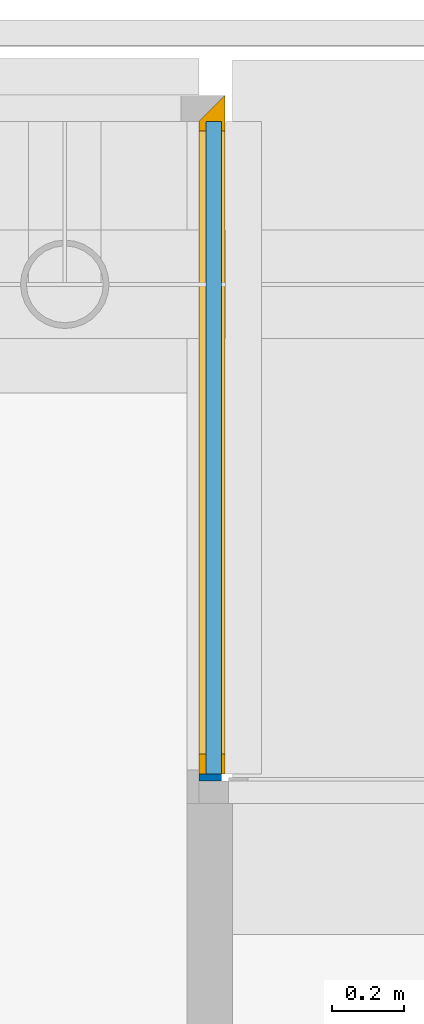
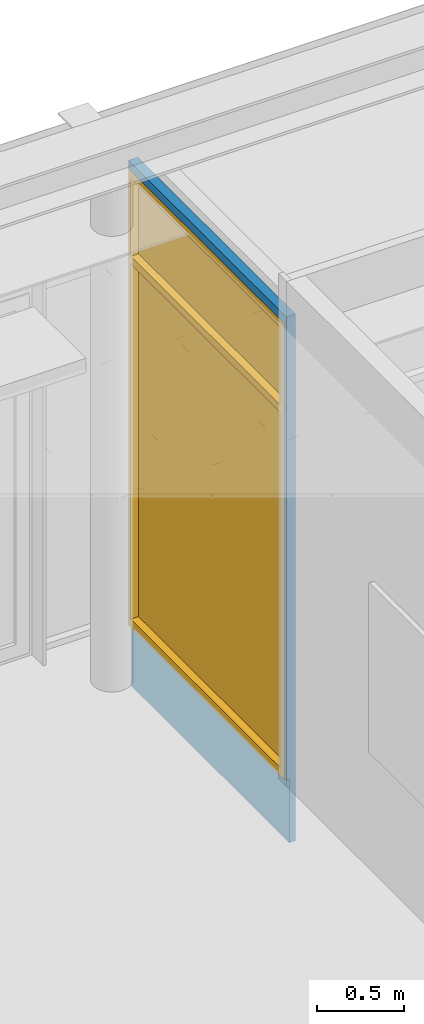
# One storey, part 81 of 347: 1 wall, 1 window, 1 opening.
"""IFC2X3 building model written with IfcOpenShell, lengths in millimetres."""

from ifc_helpers import new_model, entity, si_unit, converted_unit, derived_unit, money_unit, direction, frame, origin_with_axes, place, context, subcontext, project, spatial, open_shell, faceted_brep, surface_model, material, type_object, element, fill, save


model = new_model("IFC2X3")

# Units and contexts
model_context = context("Model", 3, precision=0.01, world=origin_with_axes(), true_north=direction((0.0, 1.0)))
plan_context = context("Plan", 3, precision=0.01, world=origin_with_axes(), true_north=direction((0.0, 1.0)))
body_context = subcontext(model_context, "Body", "Model", "MODEL_VIEW")
ifc_project = project(units=[si_unit("LENGTHUNIT", "METRE", prefix="MILLI"), si_unit("AREAUNIT", "SQUARE_METRE"), si_unit("VOLUMEUNIT", "CUBIC_METRE"), converted_unit("PLANEANGLEUNIT", "DEGREE", entity("IfcPlaneAngleMeasure", 0.0174532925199), si_unit("PLANEANGLEUNIT", "RADIAN"), dimensions=[0, 0, 0, 0, 0, 0, 0]), money_unit("EUR"), converted_unit("TIMEUNIT", "Year", entity("IfcTimeMeasure", 31556926.0), si_unit("TIMEUNIT", "SECOND"), dimensions=[0, 0, 1, 0, 0, 0, 0]), si_unit("MASSUNIT", "GRAM", prefix="KILO"), si_unit("THERMODYNAMICTEMPERATUREUNIT", "DEGREE_CELSIUS"), si_unit("LUMINOUSINTENSITYUNIT", "LUMEN"), si_unit("ENERGYUNIT", "JOULE", prefix="MEGA"), derived_unit("THERMALCONDUCTANCEUNIT", [(si_unit("POWERUNIT", "WATT"), 1), (si_unit("LENGTHUNIT", "METRE"), -1), (si_unit("THERMODYNAMICTEMPERATUREUNIT", "KELVIN"), -1)]), derived_unit("SPECIFICHEATCAPACITYUNIT", [(si_unit("ENERGYUNIT", "JOULE"), 1), (si_unit("MASSUNIT", "GRAM", prefix="KILO"), -1), (si_unit("THERMODYNAMICTEMPERATUREUNIT", "KELVIN"), -1)]), derived_unit("MASSDENSITYUNIT", [(si_unit("MASSUNIT", "GRAM", prefix="KILO"), 1), (si_unit("VOLUMEUNIT", "CUBIC_METRE"), -1)])], contexts=[model_context, plan_context])

# Site, building, storey
site_placement = place(None, origin_with_axes())
site = spatial("IfcSite", under=ifc_project, at=site_placement, Name="Site", CompositionType="ELEMENT")
building_placement = place(site_placement, origin_with_axes())
building = spatial("IfcBuilding", under=site, at=building_placement, Name="Naam gebouw", CompositionType="ELEMENT")
storey_placement = place(building_placement, origin_with_axes())
storey = spatial("IfcBuildingStorey", under=building, at=storey_placement, Name="begane grond", CompositionType="ELEMENT", Elevation=0.0)

# Wall, opening, window
ifc_material = material(Name="31 pui/kozijn")
wall_type = type_object("IfcWallType", Name="31 pui/kozijn 62", PredefinedType="NOTDEFINED")
wall_placement = place(storey_placement, frame((32108.0032564, 45153.0, -450.0), z_axis=(0.0, 0.0, 1.0), x_axis=(0.0, 1.0, 0.0)))
wall = element("IfcWall", 1, at=wall_placement, inside=storey, type_object=wall_type, material=ifc_material, Name="21_21 betonwand", context=body_context, shape_type="Brep", body=[
    faceted_brep([(82.0, -62.0, 440.0), (82.0, -62.0, 3650.0), (1883.9999775, -62.0, 3650.0), (1883.9999775, -62.0, 3710.0), (62.0000046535, -62.0, 3710.0), (62.0000046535, -62.0, 0.0), (1883.9999775, -62.0, 0.0), (1883.9999775, -62.0, 440.0), (82.0, -20.0, 440.0), (82.0, -20.0, 450.0), (82.0, 0.0, 450.0), (82.0, 0.0, 3650.0), (1883.9999775, 0.0, 3650.0), (1883.9999775, 0.0, 3710.0), (62.0, 0.0, 3710.0), (62.0, 0.0, 450.0), (62.0000015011, -20.0, 450.0), (62.0000015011, -20.0, 0.0), (1883.9999775, -20.0, 0.0), (1883.9999775, -20.0, 440.0)], [[[0, 1, 2, 3, 4, 5, 6, 7]], [[1, 0, 8, 9, 10, 11]], [[12, 2, 1, 11]], [[2, 12, 13, 3]], [[14, 4, 3, 13]], [[15, 16, 17, 5, 4, 14]], [[6, 5, 17, 18]], [[19, 7, 6, 18]], [[0, 7, 19, 8]], [[8, 19, 18, 17, 16, 9]], [[10, 9, 16, 15]], [[11, 10, 15, 14, 13, 12]]]),
])
opening_placement = place(wall_placement, frame((982.99998875, 0.0, 440.0), z_axis=(0.0, 0.0, 1.0), x_axis=(1.0, 0.0, 0.0)))
opening = element("IfcOpeningElement", 2, at=opening_placement, cuts=wall, Name="32_merk-AN1", context=body_context, shape_type="Brep", body=[
    faceted_brep([(-900.99998875, -134.0, 0.0), (-900.99998875, -134.0, 3210.0), (-900.99998875, 62.0, 3210.0), (-900.99998875, 62.0, 0.0), (962.99998875, -134.0, 0.0), (962.99998875, -134.0, 3210.0), (962.99998875, -62.0, 3210.0), (838.99998875, 62.0, 3210.0), (838.99998875, 62.0, 0.0), (962.99998875, -62.0, 0.0)], [[[0, 1, 2, 3]], [[0, 4, 5, 1]], [[1, 5, 6, 7, 2]], [[3, 2, 7, 8]], [[4, 0, 3, 8, 9]], [[5, 4, 9, 6]], [[7, 6, 9, 8]]]),
])
window_style = type_object("IfcWindowStyle", Name="Rmeerkeuze 25", ConstructionType="NOTDEFINED", OperationType="DOUBLE_PANEL_HORIZONTAL", ParameterTakesPrecedence=False, Sizeable=False)
window_placement = place(opening_placement, frame((-900.99998875, 0.0, 0.0), z_axis=(0.0, 0.0, 1.0), x_axis=(1.0, 0.0, 0.0)))
window = element("IfcWindow", 3, at=window_placement, inside=storey, type_object=window_style, Name="32_merk-AN1", ObjectType="WINDOW", OverallHeight=3210.0, OverallWidth=1802.0, context=body_context, shape_type="SurfaceModel", body=[
    faceted_brep([(1774.9999775, -72.0, 54.0), (1774.9999775, -72.0, 2556.0), (1774.9999775, 0.0, 2556.0), (1774.9999775, 0.0, 54.0), (1774.9999775, -72.0, 2610.0), (1873.9999775, -72.0, 54.0), (1873.9999775, -72.0, 3156.0), (1774.9999775, -72.0, 3156.0), (1774.9999775, 0.0, 2610.0), (1801.9999775, 0.0, 54.0), (1774.9999775, 0.0, 3156.0), (1801.9999775, 0.0, 3156.0)], [[[0, 1, 2, 3]], [[4, 1, 0, 5, 6, 7]], [[1, 4, 8, 2]], [[9, 3, 2, 8, 10, 11]], [[3, 9, 5, 0]], [[5, 9, 11, 6]], [[11, 10, 7, 6]], [[4, 7, 10, 8]]]),
    faceted_brep([(54.0, -72.0, 54.0), (0.0, -72.0, 54.0), (0.0, 0.0, 54.0), (54.0, 0.0, 54.0), (54.0, -72.0, 2556.0), (54.0, -72.0, 2610.0), (54.0, -72.0, 3156.0), (0.0, -72.0, 3156.0), (0.0, 0.0, 3156.0), (54.0, 0.0, 3156.0), (54.0, 0.0, 2610.0), (54.0, 0.0, 2556.0)], [[[0, 1, 2, 3]], [[0, 4, 5, 6, 7, 1]], [[1, 7, 8, 2]], [[3, 2, 8, 9, 10, 11]], [[4, 0, 3, 11]], [[5, 4, 11, 10]], [[6, 5, 10, 9]], [[7, 6, 9, 8]]]),
    faceted_brep([(1774.9999775, -72.0, 2610.0), (1774.9999775, -72.0, 2556.0), (1774.9999775, 0.0, 2556.0), (1774.9999775, 0.0, 2610.0), (54.0, -72.0, 2610.0), (54.0, -72.0, 2556.0), (54.0, 0.0, 2556.0), (54.0, 0.0, 2610.0)], [[[0, 1, 2, 3]], [[0, 4, 5, 1]], [[1, 5, 6, 2]], [[3, 2, 6, 7]], [[4, 0, 3, 7]], [[5, 4, 7, 6]]]),
    faceted_brep([(54.0, 0.0, 54.0), (0.0, 0.0, 54.0), (0.0, -72.0, 54.0), (54.0, -72.0, 54.0), (0.0, 0.0, 0.0), (1774.9999775, 0.0, 54.0), (1801.9999775, 0.0, 54.0), (1801.9999775, 0.0, 0.0), (0.0, -72.0, 0.0), (1873.9999775, -72.0, 0.0), (1873.9999775, -72.0, 54.0), (1774.9999775, -72.0, 54.0)], [[[0, 1, 2, 3]], [[4, 1, 0, 5, 6, 7]], [[4, 8, 2, 1]], [[2, 8, 9, 10, 11, 3]], [[3, 11, 5, 0]], [[6, 5, 11, 10]], [[9, 7, 6, 10]], [[8, 4, 7, 9]]]),
    faceted_brep([(0.0, 0.0, 3156.0), (54.0, 0.0, 3156.0), (54.0, -72.0, 3156.0), (0.0, -72.0, 3156.0), (0.0, 0.0, 3210.0), (1801.9999775, 0.0, 3210.0), (1801.9999775, 0.0, 3156.0), (1774.9999775, 0.0, 3156.0), (1774.9999775, -72.0, 3156.0), (1873.9999775, -72.0, 3156.0), (1873.9999775, -72.0, 3210.0), (0.0, -72.0, 3210.0)], [[[0, 1, 2, 3]], [[1, 0, 4, 5, 6, 7]], [[8, 2, 1, 7]], [[3, 2, 8, 9, 10, 11]], [[4, 0, 3, 11]], [[4, 11, 10, 5]], [[10, 9, 6, 5]], [[7, 6, 9, 8]]]),
    surface_model("IfcShellBasedSurfaceModel", [(1774.9999775, -72.0, 2610.0), (1774.9999775, -72.0, 3156.0), (54.0, -72.0, 3156.0), (54.0, -72.0, 2610.0)], [open_shell([[[0, 1, 2, 3]]])]),
    surface_model("IfcShellBasedSurfaceModel", [(1774.9999775, -52.0, 2610.0), (54.0, -52.0, 2610.0), (54.0, -52.0, 3156.0), (1774.9999775, -52.0, 3156.0)], [open_shell([[[0, 1, 2, 3]]])]),
    surface_model("IfcShellBasedSurfaceModel", [(1774.9999775, -72.0, 54.0), (1774.9999775, -72.0, 2556.0), (54.0, -72.0, 2556.0), (54.0, -72.0, 54.0)], [open_shell([[[0, 1, 2, 3]]])]),
    surface_model("IfcShellBasedSurfaceModel", [(1774.9999775, -52.0, 54.0), (54.0, -52.0, 54.0), (54.0, -52.0, 2556.0), (1774.9999775, -52.0, 2556.0)], [open_shell([[[0, 1, 2, 3]]])]),
])
fill(opening, window)

save(model, "model.ifc")
